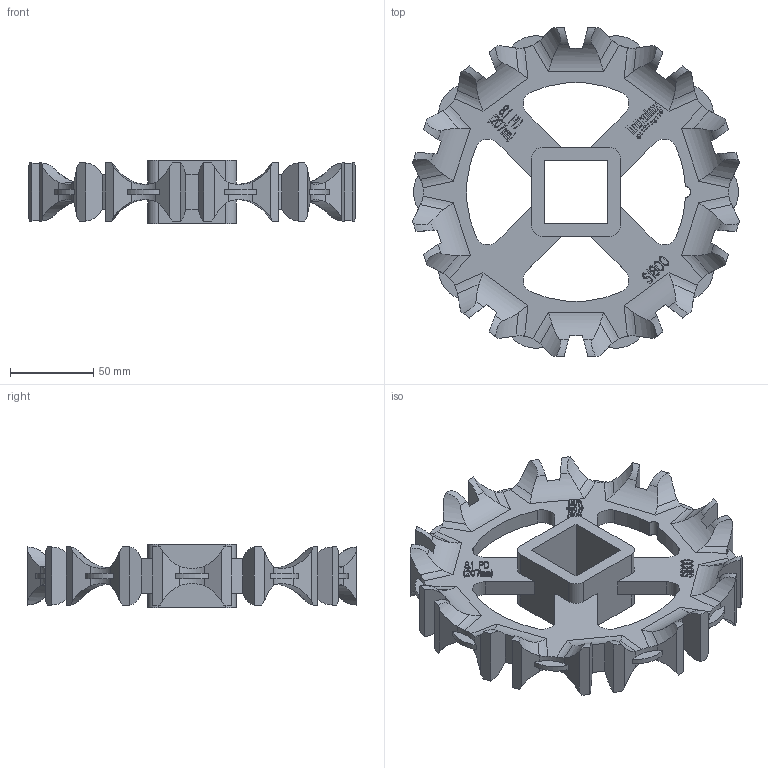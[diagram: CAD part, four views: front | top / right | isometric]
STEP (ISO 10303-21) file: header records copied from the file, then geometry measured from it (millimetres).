
FILE_DESCRIPTION((''),'2;1');
FILE_NAME('S1800_EZCLEAN_81X15_40_SQ','2008-12-12T',('jmumphre'),(''),'PRO/ENGINEER BY PARAMETRIC TECHNOLOGY CORPORATION, 2008150','PRO/ENGINEER BY PARAMETRIC TECHNOLOGY CORPORATION, 2008150','');
FILE_SCHEMA(('CONFIG_CONTROL_DESIGN'));
Length unit declared in the file: inch
Products named in the file (1): S1800_EZCLEAN_81X15_40_SQ
Bounding box: 196.5 x 197.66 x 38.1 mm (x, y, z)
Volume: 289869 mm3; surface area: 81262.7 mm2
Topology: 1 solids, 1 shells, 1070 faces, 3056 edges, 2024 vertices
Faces by surface type: plane 790, cylinder 280
Entity records: 35940 total; most frequent: CARTESIAN_POINT 8310, ORIENTED_EDGE 6112, DIRECTION 5156, EDGE_CURVE 3056, VECTOR 2456, LINE 2456, VERTEX_POINT 2024, AXIS2_PLACEMENT_3D 1350
